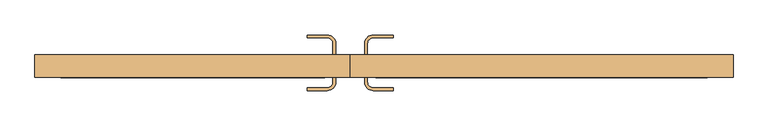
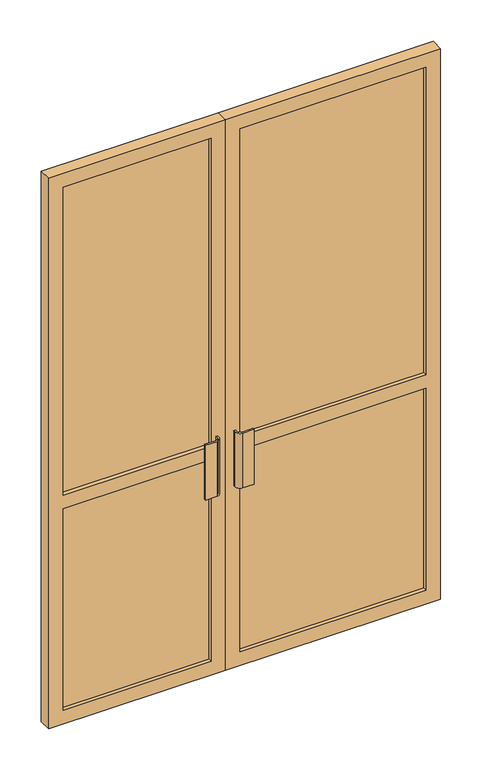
"""IFC4 building model written with IfcOpenShell, lengths in millimetres: door geometry, Дверь-Витраж-Двойная-Витрина : Дверь-Витраж-Двойная-Витрина."""

from ifc_helpers import new_model, si_unit, point, frame, frame_2d, origin, place, context, project, spatial, polyline, circle_curve, trimmed, segment, composite_curve, outline, extrude, source, transform, mapped, element, save


def door_b59ed808(model_context):
    return source(origin(), model_context, "Body", "SweptSolid", [
        extrude(outline(polyline([(2300.0, 775.0481001), (2300.0, -74.9818999), (0.0, -74.9818999), (0.0, 775.0481001), (2300.0, 775.0481001)]), holes=[polyline([(2243.0, 718.0481001), (957.0, 718.0481001), (957.0, -17.9818999), (2243.0, -17.9818999), (2243.0, 718.0481001)]), polyline([(57.0, -17.9818999), (900.0, -17.9818999), (900.0, 718.0481001), (57.0, 718.0481001), (57.0, -17.9818999)])]), frame((0.0, 0.0, 0.0), z_axis=(0.0, 1.0, 0.0), x_axis=(0.0, 0.0, 1.0)), (0.0, 0.0, 1.0), 50.0),
        extrude(outline(polyline([(2300.0, -74.9818999), (2300.0, -775.0018999), (0.0, -775.0018999), (0.0, -74.9818999), (2300.0, -74.9818999)]), holes=[polyline([(2243.0, -131.9818999), (957.0, -131.9818999), (957.0, -718.0018999), (2243.0, -718.0018999), (2243.0, -131.9818999)]), polyline([(57.0, -718.0018999), (900.0, -718.0018999), (900.0, -131.9818999), (57.0, -131.9818999), (57.0, -718.0018999)])]), frame((0.0, 0.0, 0.0), z_axis=(0.0, 1.0, 0.0), x_axis=(0.0, 0.0, 1.0)), (0.0, 0.0, 1.0), 50.0),
        extrude(outline(polyline([(718.0481001, 15.5), (-17.9818999, 15.5), (-17.9818999, 34.5), (718.0481001, 34.5), (718.0481001, 15.5)])), frame((0.0, 0.0, 57.0), z_axis=(0.0, 0.0, 1.0), x_axis=(1.0, 0.0, 0.0)), (0.0, 0.0, 1.0), 2186.0),
        extrude(outline(polyline([(-131.9818999, 15.5), (-718.0018999, 15.5), (-718.0018999, 34.5), (-131.9818999, 34.5), (-131.9818999, 15.5)])), frame((0.0, 0.0, 57.0), z_axis=(0.0, 0.0, 1.0), x_axis=(1.0, 0.0, 0.0)), (0.0, 0.0, 1.0), 2186.0),
        extrude(outline(composite_curve([segment(trimmed(circle_curve(frame_2d((-126.0318999, -9.85)), 19.05), [point((-106.9818999, -9.85))], [point((-126.0318999, -28.9))], False, "CARTESIAN"), True, "CONTINUOUS"), segment(polyline([(-126.0318999, -28.9), (-170.4818999, -28.9), (-170.4818999, -22.55), (-126.0318999, -22.55)]), True, "CONTINUOUS"), segment(trimmed(circle_curve(frame_2d((-126.0318999, -9.85)), 12.7), [point((-126.0318999, -22.55))], [point((-113.3318999, -9.85))], True, "CARTESIAN"), True, "CONTINUOUS"), segment(polyline([(-113.3318999, -9.85), (-113.3318999, 0.0), (-106.9818999, 0.0), (-106.9818999, -9.85)]), True, "CONTINUOUS")], self_intersect=False)), frame((0.0, 0.0, 762.0), z_axis=(0.0, 0.0, 1.0), x_axis=(1.0, 0.0, 0.0)), (0.0, 0.0, 1.0), 228.6),
        extrude(outline(composite_curve([segment(polyline([(-42.9818999, -9.85), (-42.9818999, 0.0), (-36.6318999, 0.0), (-36.6318999, -9.85)]), True, "CONTINUOUS"), segment(trimmed(circle_curve(frame_2d((-23.9318999, -9.85)), 12.7), [point((-36.6318999, -9.85))], [point((-23.9318999, -22.55))], True, "CARTESIAN"), True, "CONTINUOUS"), segment(polyline([(-23.9318999, -22.55), (20.5181001, -22.55), (20.5181001, -28.9), (-23.9318999, -28.9)]), True, "CONTINUOUS"), segment(trimmed(circle_curve(frame_2d((-23.9318999, -9.85)), 19.05), [point((-23.9318999, -28.9))], [point((-42.9818999, -9.85))], False, "CARTESIAN"), True, "CONTINUOUS")], self_intersect=False)), frame((0.0, 0.0, 762.0), z_axis=(0.0, 0.0, 1.0), x_axis=(1.0, 0.0, 0.0)), (0.0, 0.0, 1.0), 228.6),
        extrude(outline(composite_curve([segment(polyline([(-106.9818999, 75.4), (-106.9818999, 50.0), (-113.3318999, 50.0), (-113.3318999, 75.4)]), True, "CONTINUOUS"), segment(trimmed(circle_curve(frame_2d((-126.0318999, 75.4)), 12.7), [point((-113.3318999, 75.4))], [point((-126.0318999, 88.1))], True, "CARTESIAN"), True, "CONTINUOUS"), segment(polyline([(-126.0318999, 88.1), (-170.4818999, 88.1), (-170.4818999, 94.45), (-126.0318999, 94.45)]), True, "CONTINUOUS"), segment(trimmed(circle_curve(frame_2d((-126.0318999, 75.4)), 19.05), [point((-126.0318999, 94.45))], [point((-106.9818999, 75.4))], False, "CARTESIAN"), True, "CONTINUOUS")], self_intersect=False)), frame((0.0, 0.0, 762.0), z_axis=(0.0, 0.0, 1.0), x_axis=(1.0, 0.0, 0.0)), (0.0, 0.0, 1.0), 228.6),
        extrude(outline(composite_curve([segment(trimmed(circle_curve(frame_2d((-23.9318999, 75.4)), 19.05), [point((-42.9818999, 75.4))], [point((-23.9318999, 94.45))], False, "CARTESIAN"), True, "CONTINUOUS"), segment(polyline([(-23.9318999, 94.45), (20.5181001, 94.45), (20.5181001, 88.1), (-23.9318999, 88.1)]), True, "CONTINUOUS"), segment(trimmed(circle_curve(frame_2d((-23.9318999, 75.4)), 12.7), [point((-23.9318999, 88.1))], [point((-36.6318999, 75.4))], True, "CARTESIAN"), True, "CONTINUOUS"), segment(polyline([(-36.6318999, 75.4), (-36.6318999, 50.0), (-42.9818999, 50.0), (-42.9818999, 75.4)]), True, "CONTINUOUS")], self_intersect=False)), frame((0.0, 0.0, 762.0), z_axis=(0.0, 0.0, 1.0), x_axis=(1.0, 0.0, 0.0)), (0.0, 0.0, 1.0), 228.6),
    ])


if __name__ == "__main__":
    model = new_model("IFC4")
    model_context = context("Model", 3, world=origin())
    ifc_project = project(units=[si_unit("LENGTHUNIT", "METRE", prefix="MILLI")], contexts=[model_context])
    site = spatial("IfcSite", under=ifc_project)
    building = spatial("IfcBuilding", under=site)
    placement = place(None, origin())
    door_shape = door_b59ed808(model_context)
    element("IfcDoor", 1, ObjectType="Дверь-Витраж-Двойная-Витрина : Дверь-Витраж-Двойная-Витрина", at=placement, inside=building, context=model_context, shape_type="MappedRepresentation", body=[
        mapped(door_shape, transform((0.0, 0.0, 0.0), x_axis=(1.0, 0.0, 0.0), y_axis=(0.0, 1.0, 0.0), z_axis=(0.0, 0.0, 1.0))),
    ])
    save(model, "model.ifc")
